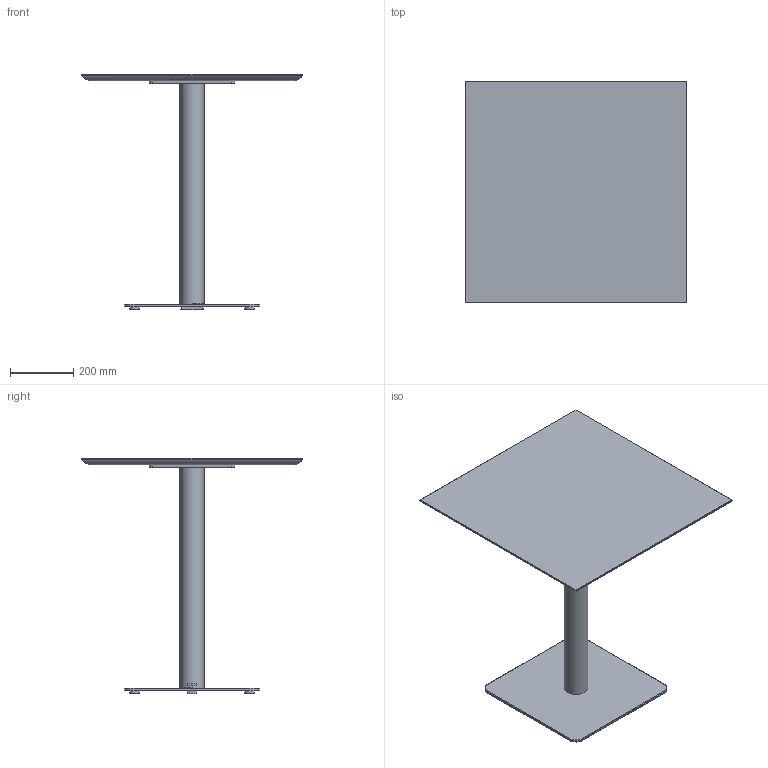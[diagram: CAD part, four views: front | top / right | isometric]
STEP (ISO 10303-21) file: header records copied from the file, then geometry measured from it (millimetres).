
FILE_DESCRIPTION( ('This file contains a STEP AP42 implementation' ,'as created by ZW3D STEP Interface translator.') ,'2;1' );
FILE_NAME( 'Henri - B_Carré - F4 - M3 - 700 x 700 x 750.stp' ,'24 912.172659', (''), ('ZWCAD Software Co.'), 'Version 1.0', 'ZW3D to STEP translator', '' );
FILE_SCHEMA(('AUTOMOTIVE_DESIGN { 1 0 10303 214 1 1 1 1 }'));
Length unit declared in the file: millimetre
Products named in the file (14): 0; PIED BISTROT PARAMETRIQUE_; COLONNE ACIER Ø76 V.02_; TUB-D076-02_; PLA-R76B-01_; CROIX ACIER 370 V.02_; CRX-X370-02_; SOCLE ACIER L 425x425 V.02_; SCL-R425-02_; PLA-R30A-01_; PLA-R30A-01; WUERTH 0276063020 Euro-screw 6.3x2 Verzinkt_; PLATEAU BISTROT PARAMETRIQUE_; insert_m6_13_
Assembly tree (22 placements, depth 3):
  0
  PIED BISTROT PARAMETRIQUE_
    COLONNE ACIER Ø76 V.02_
      TUB-D076-02_
      PLA-R76B-01_  x2
    CROIX ACIER 370 V.02_
      CRX-X370-02_
    SOCLE ACIER L 425x425 V.02_
      SCL-R425-02_
      PLA-R30A-01_
      PLA-R30A-01  x3
    WUERTH 0276063020 Euro-screw 6.3x2 Verzinkt_
    PLATEAU BISTROT PARAMETRIQUE_
      insert_m6_13_  x8
Bounding box: 700 x 700 x 744 mm (x, y, z)
Volume: 11750498.6 mm3; surface area: 1895048.3 mm2
Topology: 19 solids, 19 shells, 533 faces, 1306 edges, 818 vertices
Faces by surface type: plane 258, bspline 125, cylinder 102, cone 47, torus 1
Full cylindrical faces by diameter (mm): 4.88 x1, 6 x8, 6.3 x1, 8 x45, 12 x2, 14 x2, 30 x4, 72 x1, 76 x1
Entity records: 12234 total; most frequent: CARTESIAN_POINT 3472, ORIENTED_EDGE 1608, DIRECTION 1463, EDGE_CURVE 804, VERTEX_POINT 514, VECTOR 505, LINE 505, AXIS2_PLACEMENT_3D 479
